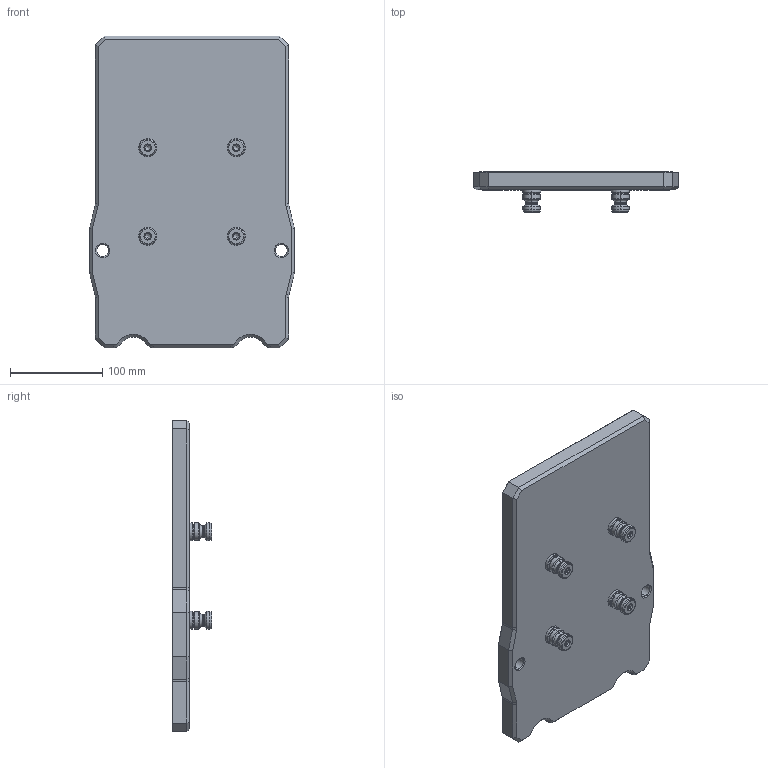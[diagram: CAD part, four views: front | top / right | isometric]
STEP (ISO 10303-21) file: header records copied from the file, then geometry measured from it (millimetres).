
FILE_DESCRIPTION (( 'STEP AP214' ), '1' );
FILE_NAME ('RL96-KD688.STEP', '2019-04-30T16:45:07', ( '' ), ( '' ), 'SwSTEP 2.0', 'SolidWorks 2018', '' );
FILE_SCHEMA (( 'AUTOMOTIVE_DESIGN' ));
Length unit declared in the file: millimetre
Products named in the file (5): PS20F; 39874.CPSS_91390A162; PS20F-1_HARD TURN; AKD688-RL96; RL96-KD688
Assembly tree (7 placements, depth 3):
  RL96-KD688
    AKD688-RL96
    PS20F  x4
      PS20F-1_HARD TURN
      39874.CPSS_91390A162
Bounding box: 222.25 x 43.05 x 338 mm (x, y, z)
Volume: 1362642.7 mm3; surface area: 180048.9 mm2
Topology: 9 solids, 9 shells, 710 faces, 1686 edges, 986 vertices
Faces by surface type: cylinder 220, plane 200, cone 174, torus 104, bspline 12
Entity records: 11003 total; most frequent: CARTESIAN_POINT 4339, DIRECTION 1366, ORIENTED_EDGE 1298, EDGE_CURVE 649, AXIS2_PLACEMENT_3D 521, VERTEX_POINT 383, VECTOR 324, LINE 324
